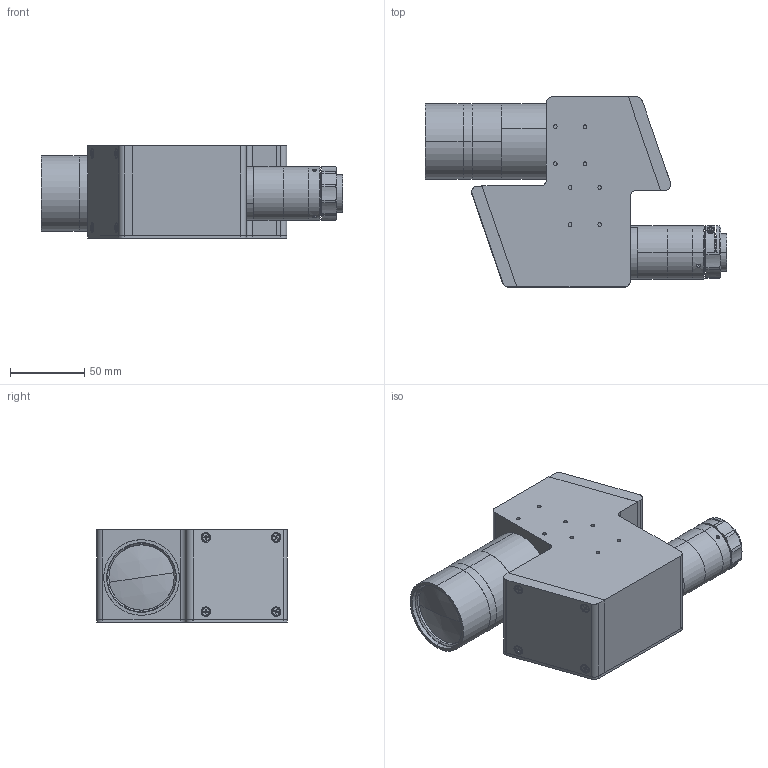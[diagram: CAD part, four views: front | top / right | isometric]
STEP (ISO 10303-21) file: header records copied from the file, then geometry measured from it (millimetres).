
FILE_DESCRIPTION (( 'STEP AP203' ), '1' );
FILE_NAME ('XF-MH1X379.STEP', '2020-08-24T07:18:55', ( 'canrill-02' ), ( '' ), 'SwSTEP 2.0', 'SolidWorks 2014', '' );
FILE_SCHEMA (( 'CONFIG_CONTROL_DESIGN' ));
Length unit declared in the file: millimetre
Products named in the file (1): XF-MH1X379
Bounding box: 203.04 x 128 x 62 mm (x, y, z)
Surface area: 93891.6 mm2 (no closed solid volume)
Topology: 0 solids, 32 shells, 386 faces, 1284 edges, 903 vertices
Faces by surface type: plane 191, cylinder 150, cone 41, sphere 2, torus 2
Entity records: 14393 total; most frequent: CARTESIAN_POINT 2905, DIRECTION 2506, ORIENTED_EDGE 2063, EDGE_CURVE 1282, VERTEX_POINT 903, AXIS2_PLACEMENT_3D 864, LINE 778, VECTOR 778
